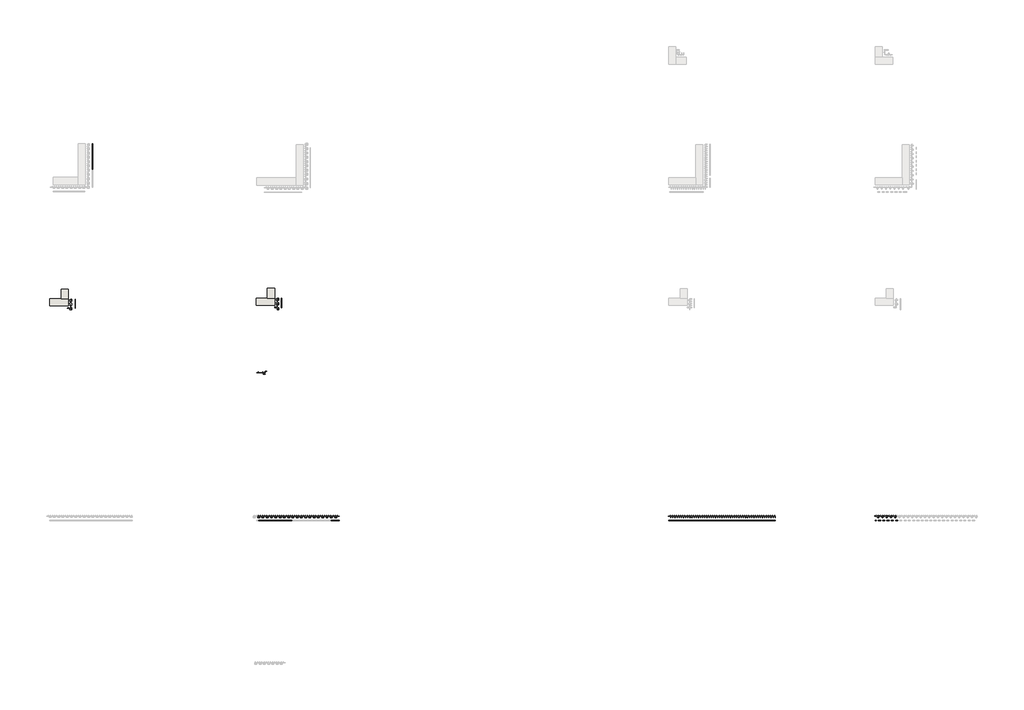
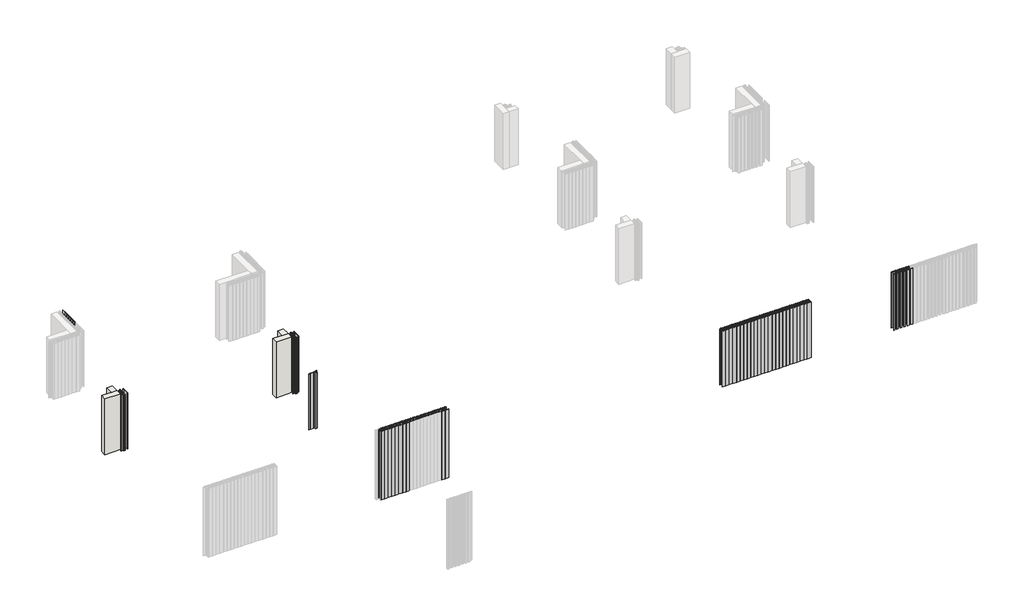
# One storey, part 2 of 5: 56 members, 51 plates, 4 walls.
"""IFC4 building model written with IfcOpenShell, lengths in millimetres."""

from ifc_helpers import new_model, si_unit, origin, origin_with_axes, place, context, project, spatial, polyline, outline, extrude, faceted_brep, transform, mapped, element, save
from components import rectangular_mullion_c315bab6, rectangular_mullion_ed2689c2, rectangular_mullion_e7adb6c3, rectangular_mullion_4f3ead3b, rectangular_mullion_e60a95b4, rectangular_mullion_f5000a33, rectangular_mullion_172d6531, rectangular_mullion_79f168d4, rectangular_mullion_f11ffd68, rectangular_mullion_1797d992, rectangular_mullion_e9b3b9de, rectangular_mullion_e46097ff, empty_system_panel_empty_b723bac0, empty_system_panel_empty_58314f5d, empty_system_panel_empty_5f038340, empty_system_panel_empty_5ee57205, empty_system_panel_empty_482ac549, empty_system_panel_empty_8461d5c4, empty_system_panel_empty_c6af10a3, empty_system_panel_empty_2e64bfd6, empty_system_panel_empty_80cd7aea, empty_system_panel_empty_fce85d88, empty_system_panel_empty_02ad7564

model = new_model("IFC4")

# Units and contexts
model_context = context("Model", 3, world=origin())
ifc_project = project(units=[si_unit("LENGTHUNIT", "METRE", prefix="MILLI")], contexts=[model_context])

# Site, building, storey
site = spatial("IfcSite", under=ifc_project)
building = spatial("IfcBuilding", under=site)
storey = spatial("IfcBuildingStorey", under=building, Name="REN - Ground plan", Elevation=0.0)

# Members
placement = place(None, origin())
rectangular_mullion_shape = rectangular_mullion_c315bab6(model_context)
element("IfcMember", 1, ObjectType="Rectangular Mullion : Renson_Linarte_LA-B25-01", at=placement, inside=storey, context=model_context, shape_type="MappedRepresentation", body=[
    mapped(rectangular_mullion_shape, transform((8012.7344965, 5541.5060851, 0.0), x_axis=(-1.0, 0.0, 0.0), y_axis=(0.0, 1.0, 0.0), z_axis=(0.0, 0.0, -1.0))),
])
element("IfcMember", 2, ObjectType="Rectangular Mullion : Renson_Linarte_LA-B25-01", at=placement, inside=storey, context=model_context, shape_type="MappedRepresentation", body=[
    mapped(rectangular_mullion_shape, transform((7952.7344965, 5541.5060851, 0.0), x_axis=(-1.0, 0.0, 0.0), y_axis=(0.0, 1.0, 0.0), z_axis=(0.0, 0.0, -1.0))),
])
element("IfcMember", 3, ObjectType="Rectangular Mullion : Renson_Linarte_LA-B25-01", at=placement, inside=storey, context=model_context, shape_type="MappedRepresentation", body=[
    mapped(rectangular_mullion_shape, transform((7892.7344965, 5541.5060851, 0.0), x_axis=(-1.0, 0.0, 0.0), y_axis=(0.0, 1.0, 0.0), z_axis=(0.0, 0.0, -1.0))),
])
element("IfcMember", 4, ObjectType="Rectangular Mullion : Renson_Linarte_LA-B25-01", at=placement, inside=storey, context=model_context, shape_type="MappedRepresentation", body=[
    mapped(rectangular_mullion_shape, transform((7832.7344965, 5541.5060851, 0.0), x_axis=(-1.0, 0.0, 0.0), y_axis=(0.0, 1.0, 0.0), z_axis=(0.0, 0.0, -1.0))),
])
element("IfcMember", 5, ObjectType="Rectangular Mullion : Renson_Linarte_LA-B25-01", at=placement, inside=storey, context=model_context, shape_type="MappedRepresentation", body=[
    mapped(rectangular_mullion_shape, transform((7772.7344965, 5541.5060851, 0.0), x_axis=(-1.0, 0.0, 0.0), y_axis=(0.0, 1.0, 0.0), z_axis=(0.0, 0.0, -1.0))),
])
element("IfcMember", 6, ObjectType="Rectangular Mullion : Renson_Linarte_LA-B25-01", at=placement, inside=storey, context=model_context, shape_type="MappedRepresentation", body=[
    mapped(rectangular_mullion_shape, transform((7712.7344965, 5541.5060851, 0.0), x_axis=(-1.0, 0.0, 0.0), y_axis=(0.0, 1.0, 0.0), z_axis=(0.0, 0.0, -1.0))),
])
element("IfcMember", 7, ObjectType="Rectangular Mullion : Renson_Linarte_LA-B25-01", at=placement, inside=storey, context=model_context, shape_type="MappedRepresentation", body=[
    mapped(rectangular_mullion_shape, transform((7652.7344965, 5541.5060851, 0.0), x_axis=(-1.0, 0.0, 0.0), y_axis=(0.0, 1.0, 0.0), z_axis=(0.0, 0.0, -1.0))),
])
element("IfcMember", 8, ObjectType="Rectangular Mullion : Renson_Linarte_LA-B25-01", at=placement, inside=storey, context=model_context, shape_type="MappedRepresentation", body=[
    mapped(rectangular_mullion_shape, transform((7592.7344965, 5541.5060851, 0.0), x_axis=(-1.0, 0.0, 0.0), y_axis=(0.0, 1.0, 0.0), z_axis=(0.0, 0.0, -1.0))),
])
element("IfcMember", 9, ObjectType="Rectangular Mullion : Renson_Linarte_LA-B25-01", at=placement, inside=storey, context=model_context, shape_type="MappedRepresentation", body=[
    mapped(rectangular_mullion_shape, transform((7532.7344965, 5541.5060851, 0.0), x_axis=(-1.0, 0.0, 0.0), y_axis=(0.0, 1.0, 0.0), z_axis=(0.0, 0.0, -1.0))),
])
element("IfcMember", 10, ObjectType="Rectangular Mullion : Renson_Linarte_LA-B25-01", at=placement, inside=storey, context=model_context, shape_type="MappedRepresentation", body=[
    mapped(rectangular_mullion_shape, transform((7472.7344965, 5541.5060851, 0.0), x_axis=(-1.0, 0.0, 0.0), y_axis=(0.0, 1.0, 0.0), z_axis=(0.0, 0.0, -1.0))),
])
element("IfcMember", 11, ObjectType="Rectangular Mullion : Renson_Linarte_LA-B25-01", at=placement, inside=storey, context=model_context, shape_type="MappedRepresentation", body=[
    mapped(rectangular_mullion_shape, transform((7412.7344965, 5541.5060851, 0.0), x_axis=(-1.0, 0.0, 0.0), y_axis=(0.0, 1.0, 0.0), z_axis=(0.0, 0.0, -1.0))),
])
element("IfcMember", 12, ObjectType="Rectangular Mullion : Renson_Linarte_LA-B25-01", at=placement, inside=storey, context=model_context, shape_type="MappedRepresentation", body=[
    mapped(rectangular_mullion_shape, transform((7352.7344965, 5541.5060851, 0.0), x_axis=(-1.0, 0.0, 0.0), y_axis=(0.0, 1.0, 0.0), z_axis=(0.0, 0.0, -1.0))),
])
element("IfcMember", 13, ObjectType="Rectangular Mullion : Renson_Linarte_LA-B25-01", at=placement, inside=storey, context=model_context, shape_type="MappedRepresentation", body=[
    mapped(rectangular_mullion_shape, transform((7292.7344965, 5541.5060851, 0.0), x_axis=(-1.0, 0.0, 0.0), y_axis=(0.0, 1.0, 0.0), z_axis=(0.0, 0.0, -1.0))),
])
element("IfcMember", 14, ObjectType="Rectangular Mullion : Renson_Linarte_LA-B25-01", at=placement, inside=storey, context=model_context, shape_type="MappedRepresentation", body=[
    mapped(rectangular_mullion_shape, transform((7232.7344965, 5541.5060851, 0.0), x_axis=(-1.0, 0.0, 0.0), y_axis=(0.0, 1.0, 0.0), z_axis=(0.0, 0.0, -1.0))),
])
element("IfcMember", 15, ObjectType="Rectangular Mullion : Renson_Linarte_LA-B25-01", at=placement, inside=storey, context=model_context, shape_type="MappedRepresentation", body=[
    mapped(rectangular_mullion_shape, transform((7172.7344965, 5541.5060851, 0.0), x_axis=(-1.0, 0.0, 0.0), y_axis=(0.0, 1.0, 0.0), z_axis=(0.0, 0.0, -1.0))),
])
element("IfcMember", 16, ObjectType="Rectangular Mullion : Renson_Linarte_LA-B25-01", at=placement, inside=storey, context=model_context, shape_type="MappedRepresentation", body=[
    mapped(rectangular_mullion_shape, transform((7112.7344965, 5541.5060851, 0.0), x_axis=(-1.0, 0.0, 0.0), y_axis=(0.0, 1.0, 0.0), z_axis=(0.0, 0.0, -1.0))),
])
element("IfcMember", 17, ObjectType="Rectangular Mullion : Renson_Linarte_LA-B25-01", at=placement, inside=storey, context=model_context, shape_type="MappedRepresentation", body=[
    mapped(rectangular_mullion_shape, transform((7052.7344965, 5541.5060851, 0.0), x_axis=(-1.0, 0.0, 0.0), y_axis=(0.0, 1.0, 0.0), z_axis=(0.0, 0.0, -1.0))),
])
element("IfcMember", 18, ObjectType="Rectangular Mullion : Renson_Linarte_LA-B25-01", at=placement, inside=storey, context=model_context, shape_type="MappedRepresentation", body=[
    mapped(rectangular_mullion_shape, transform((8072.7344965, 5541.5060851, 0.0), x_axis=(-1.0, 0.0, 0.0), y_axis=(0.0, 1.0, 0.0), z_axis=(0.0, 0.0, -1.0))),
])
rectangular_mullion_2_shape = rectangular_mullion_ed2689c2(model_context)
element("IfcMember", 19, ObjectType="Rectangular Mullion : Renson_Linarte_LA-B25-01", at=placement, inside=storey, context=model_context, shape_type="MappedRepresentation", body=[
    mapped(rectangular_mullion_2_shape, transform((8132.7344968, 5541.5060851, 1225.5020157), x_axis=(1.0, 0.0, 0.0), y_axis=(0.0, 1.0, 0.0), z_axis=(0.0, 0.0, 1.0))),
])
rectangular_mullion_3_shape = rectangular_mullion_e7adb6c3(model_context)
element("IfcMember", 20, ObjectType="Rectangular Mullion : Renson_Linarte_LA-B25-03", at=placement, inside=storey, context=model_context, shape_type="MappedRepresentation", body=[
    mapped(rectangular_mullion_3_shape, transform((7224.5640557, 8408.8720211, 0.0), x_axis=(-6.757625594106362e-10, -1.0, 0.0), y_axis=(-1.0, 6.757625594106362e-10, 0.0), z_axis=(0.0, 0.0, -1.0))),
])
rectangular_mullion_4_shape = rectangular_mullion_4f3ead3b(model_context)
element("IfcMember", 21, ObjectType="Rectangular Mullion : Renson_Linarte_LA-B25-05", at=placement, inside=storey, context=model_context, shape_type="MappedRepresentation", body=[
    mapped(rectangular_mullion_4_shape, transform((7224.5640558, 8541.9720215, 0.0), x_axis=(-6.757625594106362e-10, -1.0, 0.0), y_axis=(-1.0, 6.757625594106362e-10, 0.0), z_axis=(0.0, 0.0, -1.0))),
])
rectangular_mullion_5_shape = rectangular_mullion_e60a95b4(model_context)
element("IfcMember", 22, ObjectType="Rectangular Mullion : Renson_Linarte_LA-B25-02", at=placement, inside=storey, context=model_context, shape_type="MappedRepresentation", body=[
    mapped(rectangular_mullion_5_shape, transform((7224.5640558, 8568.8720211, 1000.0), x_axis=(6.757625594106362e-10, 1.0, 0.0), y_axis=(-1.0, 6.757625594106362e-10, 0.0), z_axis=(0.0, 0.0, 1.0))),
])
rectangular_mullion_6_shape = rectangular_mullion_f5000a33(model_context)
element("IfcMember", 23, ObjectType="Rectangular Mullion : Renson_Linarte_AZ-DB-16", at=placement, inside=storey, context=model_context, shape_type="MappedRepresentation", body=[
    mapped(rectangular_mullion_6_shape, transform((6972.7344968, 7558.4014326, 1000.0), x_axis=(-1.0, 0.0, 0.0), y_axis=(0.0, -1.0, 0.0), z_axis=(0.0, 0.0, 1.0))),
])
rectangular_mullion_7_shape = rectangular_mullion_172d6531(model_context)
element("IfcMember", 24, ObjectType="Rectangular Mullion : Renson_Linarte_LA-B16-05", at=placement, inside=storey, context=model_context, shape_type="MappedRepresentation", body=[
    mapped(rectangular_mullion_7_shape, transform((4324.5640554, 8532.9720215, 0.0), x_axis=(2.972011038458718e-10, -1.0, 0.0), y_axis=(-1.0, -2.972011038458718e-10, 0.0), z_axis=(0.0, 0.0, -1.0))),
])
rectangular_mullion_8_shape = rectangular_mullion_79f168d4(model_context)
element("IfcMember", 25, ObjectType="Rectangular Mullion : Renson_Linarte_LA-B16-02", at=placement, inside=storey, context=model_context, shape_type="MappedRepresentation", body=[
    mapped(rectangular_mullion_8_shape, transform((4324.5640554, 8556.1164634, 1000.0), x_axis=(-2.972011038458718e-10, 1.0, 0.0), y_axis=(-1.0, -2.972011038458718e-10, 0.0), z_axis=(0.0, 0.0, 1.0))),
])
rectangular_mullion_9_shape = rectangular_mullion_f11ffd68(model_context)
element("IfcMember", 26, ObjectType="Rectangular Mullion : Renson_Linarte_LA-B16-03", at=placement, inside=storey, context=model_context, shape_type="MappedRepresentation", body=[
    mapped(rectangular_mullion_9_shape, transform((4324.5640554, 8408.8720211, 0.0), x_axis=(2.972011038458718e-10, -1.0, 0.0), y_axis=(-1.0, -2.972011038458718e-10, 0.0), z_axis=(0.0, 0.0, -1.0))),
])
rectangular_mullion_10_shape = rectangular_mullion_1797d992(model_context)
element("IfcMember", 27, ObjectType="Rectangular Mullion : Renson_Linarte_LA-E25-01", at=placement, inside=storey, context=model_context, shape_type="MappedRepresentation", body=[
    mapped(rectangular_mullion_10_shape, transform((14264.5640555, 5541.5060851, 1000.0), x_axis=(1.0, 0.0, 0.0), y_axis=(0.0, 1.0, 0.0), z_axis=(0.0, 0.0, 1.0))),
])
rectangular_mullion_11_shape = rectangular_mullion_e9b3b9de(model_context)
element("IfcMember", 28, ObjectType="Rectangular Mullion : Renson_Linarte_LA-E25-01", at=placement, inside=storey, context=model_context, shape_type="MappedRepresentation", body=[
    mapped(rectangular_mullion_11_shape, transform((14144.5640552, 5541.5060851, 0.0), x_axis=(-1.0, 0.0, 0.0), y_axis=(0.0, 1.0, 0.0), z_axis=(0.0, 0.0, -1.0))),
])
element("IfcMember", 29, ObjectType="Rectangular Mullion : Renson_Linarte_LA-E25-01", at=placement, inside=storey, context=model_context, shape_type="MappedRepresentation", body=[
    mapped(rectangular_mullion_11_shape, transform((14084.5640552, 5541.5060851, 0.0), x_axis=(-1.0, 0.0, 0.0), y_axis=(0.0, 1.0, 0.0), z_axis=(0.0, 0.0, -1.0))),
])
element("IfcMember", 30, ObjectType="Rectangular Mullion : Renson_Linarte_LA-E25-01", at=placement, inside=storey, context=model_context, shape_type="MappedRepresentation", body=[
    mapped(rectangular_mullion_11_shape, transform((14024.5640552, 5541.5060851, 0.0), x_axis=(-1.0, 0.0, 0.0), y_axis=(0.0, 1.0, 0.0), z_axis=(0.0, 0.0, -1.0))),
])
element("IfcMember", 31, ObjectType="Rectangular Mullion : Renson_Linarte_LA-E25-01", at=placement, inside=storey, context=model_context, shape_type="MappedRepresentation", body=[
    mapped(rectangular_mullion_11_shape, transform((13964.5640552, 5541.5060851, 0.0), x_axis=(-1.0, 0.0, 0.0), y_axis=(0.0, 1.0, 0.0), z_axis=(0.0, 0.0, -1.0))),
])
element("IfcMember", 32, ObjectType="Rectangular Mullion : Renson_Linarte_LA-E25-01", at=placement, inside=storey, context=model_context, shape_type="MappedRepresentation", body=[
    mapped(rectangular_mullion_11_shape, transform((13904.5640552, 5541.5060851, 0.0), x_axis=(-1.0, 0.0, 0.0), y_axis=(0.0, 1.0, 0.0), z_axis=(0.0, 0.0, -1.0))),
])
element("IfcMember", 33, ObjectType="Rectangular Mullion : Renson_Linarte_LA-E25-01", at=placement, inside=storey, context=model_context, shape_type="MappedRepresentation", body=[
    mapped(rectangular_mullion_11_shape, transform((13844.5640552, 5541.5060851, 0.0), x_axis=(-1.0, 0.0, 0.0), y_axis=(0.0, 1.0, 0.0), z_axis=(0.0, 0.0, -1.0))),
])
element("IfcMember", 34, ObjectType="Rectangular Mullion : Renson_Linarte_LA-E25-01", at=placement, inside=storey, context=model_context, shape_type="MappedRepresentation", body=[
    mapped(rectangular_mullion_11_shape, transform((13784.5640552, 5541.5060851, 0.0), x_axis=(-1.0, 0.0, 0.0), y_axis=(0.0, 1.0, 0.0), z_axis=(0.0, 0.0, -1.0))),
])
element("IfcMember", 35, ObjectType="Rectangular Mullion : Renson_Linarte_LA-E25-01", at=placement, inside=storey, context=model_context, shape_type="MappedRepresentation", body=[
    mapped(rectangular_mullion_11_shape, transform((13724.5640552, 5541.5060851, 0.0), x_axis=(-1.0, 0.0, 0.0), y_axis=(0.0, 1.0, 0.0), z_axis=(0.0, 0.0, -1.0))),
])
element("IfcMember", 36, ObjectType="Rectangular Mullion : Renson_Linarte_LA-E25-01", at=placement, inside=storey, context=model_context, shape_type="MappedRepresentation", body=[
    mapped(rectangular_mullion_11_shape, transform((13664.5640552, 5541.5060851, 0.0), x_axis=(-1.0, 0.0, 0.0), y_axis=(0.0, 1.0, 0.0), z_axis=(0.0, 0.0, -1.0))),
])
element("IfcMember", 37, ObjectType="Rectangular Mullion : Renson_Linarte_LA-E25-01", at=placement, inside=storey, context=model_context, shape_type="MappedRepresentation", body=[
    mapped(rectangular_mullion_11_shape, transform((13604.5640552, 5541.5060851, 0.0), x_axis=(-1.0, 0.0, 0.0), y_axis=(0.0, 1.0, 0.0), z_axis=(0.0, 0.0, -1.0))),
])
element("IfcMember", 38, ObjectType="Rectangular Mullion : Renson_Linarte_LA-E25-01", at=placement, inside=storey, context=model_context, shape_type="MappedRepresentation", body=[
    mapped(rectangular_mullion_11_shape, transform((13544.5640552, 5541.5060851, 0.0), x_axis=(-1.0, 0.0, 0.0), y_axis=(0.0, 1.0, 0.0), z_axis=(0.0, 0.0, -1.0))),
])
element("IfcMember", 39, ObjectType="Rectangular Mullion : Renson_Linarte_LA-E25-01", at=placement, inside=storey, context=model_context, shape_type="MappedRepresentation", body=[
    mapped(rectangular_mullion_11_shape, transform((13484.5640552, 5541.5060851, 0.0), x_axis=(-1.0, 0.0, 0.0), y_axis=(0.0, 1.0, 0.0), z_axis=(0.0, 0.0, -1.0))),
])
element("IfcMember", 40, ObjectType="Rectangular Mullion : Renson_Linarte_LA-E25-01", at=placement, inside=storey, context=model_context, shape_type="MappedRepresentation", body=[
    mapped(rectangular_mullion_11_shape, transform((13424.5640552, 5541.5060851, 0.0), x_axis=(-1.0, 0.0, 0.0), y_axis=(0.0, 1.0, 0.0), z_axis=(0.0, 0.0, -1.0))),
])
element("IfcMember", 41, ObjectType="Rectangular Mullion : Renson_Linarte_LA-E25-01", at=placement, inside=storey, context=model_context, shape_type="MappedRepresentation", body=[
    mapped(rectangular_mullion_11_shape, transform((13364.5640552, 5541.5060851, 0.0), x_axis=(-1.0, 0.0, 0.0), y_axis=(0.0, 1.0, 0.0), z_axis=(0.0, 0.0, -1.0))),
])
element("IfcMember", 42, ObjectType="Rectangular Mullion : Renson_Linarte_LA-E25-01", at=placement, inside=storey, context=model_context, shape_type="MappedRepresentation", body=[
    mapped(rectangular_mullion_11_shape, transform((13304.5640552, 5541.5060851, 0.0), x_axis=(-1.0, 0.0, 0.0), y_axis=(0.0, 1.0, 0.0), z_axis=(0.0, 0.0, -1.0))),
])
element("IfcMember", 43, ObjectType="Rectangular Mullion : Renson_Linarte_LA-E25-01", at=placement, inside=storey, context=model_context, shape_type="MappedRepresentation", body=[
    mapped(rectangular_mullion_11_shape, transform((13244.5640552, 5541.5060851, 0.0), x_axis=(-1.0, 0.0, 0.0), y_axis=(0.0, 1.0, 0.0), z_axis=(0.0, 0.0, -1.0))),
])
element("IfcMember", 44, ObjectType="Rectangular Mullion : Renson_Linarte_LA-E25-01", at=placement, inside=storey, context=model_context, shape_type="MappedRepresentation", body=[
    mapped(rectangular_mullion_11_shape, transform((13184.5640552, 5541.5060851, 0.0), x_axis=(-1.0, 0.0, 0.0), y_axis=(0.0, 1.0, 0.0), z_axis=(0.0, 0.0, -1.0))),
])
element("IfcMember", 45, ObjectType="Rectangular Mullion : Renson_Linarte_LA-E25-01", at=placement, inside=storey, context=model_context, shape_type="MappedRepresentation", body=[
    mapped(rectangular_mullion_11_shape, transform((13124.5640552, 5541.5060851, 0.0), x_axis=(-1.0, 0.0, 0.0), y_axis=(0.0, 1.0, 0.0), z_axis=(0.0, 0.0, -1.0))),
])
element("IfcMember", 46, ObjectType="Rectangular Mullion : Renson_Linarte_LA-E25-01", at=placement, inside=storey, context=model_context, shape_type="MappedRepresentation", body=[
    mapped(rectangular_mullion_11_shape, transform((13064.5640552, 5541.5060851, 0.0), x_axis=(-1.0, 0.0, 0.0), y_axis=(0.0, 1.0, 0.0), z_axis=(0.0, 0.0, -1.0))),
])
element("IfcMember", 47, ObjectType="Rectangular Mullion : Renson_Linarte_LA-E25-01", at=placement, inside=storey, context=model_context, shape_type="MappedRepresentation", body=[
    mapped(rectangular_mullion_11_shape, transform((13004.5640552, 5541.5060851, 0.0), x_axis=(-1.0, 0.0, 0.0), y_axis=(0.0, 1.0, 0.0), z_axis=(0.0, 0.0, -1.0))),
])
element("IfcMember", 48, ObjectType="Rectangular Mullion : Renson_Linarte_LA-E25-01", at=placement, inside=storey, context=model_context, shape_type="MappedRepresentation", body=[
    mapped(rectangular_mullion_11_shape, transform((12944.5640552, 5541.5060851, 0.0), x_axis=(-1.0, 0.0, 0.0), y_axis=(0.0, 1.0, 0.0), z_axis=(0.0, 0.0, -1.0))),
])
element("IfcMember", 49, ObjectType="Rectangular Mullion : Renson_Linarte_LA-E25-01", at=placement, inside=storey, context=model_context, shape_type="MappedRepresentation", body=[
    mapped(rectangular_mullion_11_shape, transform((12884.5640552, 5541.5060851, 0.0), x_axis=(-1.0, 0.0, 0.0), y_axis=(0.0, 1.0, 0.0), z_axis=(0.0, 0.0, -1.0))),
])
element("IfcMember", 50, ObjectType="Rectangular Mullion : Renson_Linarte_LA-E25-01", at=placement, inside=storey, context=model_context, shape_type="MappedRepresentation", body=[
    mapped(rectangular_mullion_11_shape, transform((14204.5640552, 5541.5060851, 0.0), x_axis=(-1.0, 0.0, 0.0), y_axis=(0.0, 1.0, 0.0), z_axis=(0.0, 0.0, -1.0))),
])
element("IfcMember", 51, ObjectType="Rectangular Mullion : Renson_Linarte_LA-E25-01", at=placement, inside=storey, context=model_context, shape_type="MappedRepresentation", body=[
    mapped(rectangular_mullion_11_shape, transform((12824.5640552, 5541.5060851, 0.0), x_axis=(-1.0, 0.0, 0.0), y_axis=(0.0, 1.0, 0.0), z_axis=(0.0, 0.0, -1.0))),
])
rectangular_mullion_12_shape = rectangular_mullion_e46097ff(model_context)
element("IfcMember", 52, ObjectType="Rectangular Mullion : Renson_Linarte_LA-CO-01", at=placement, inside=storey, context=model_context, shape_type="MappedRepresentation", body=[
    mapped(rectangular_mullion_12_shape, transform((15964.5640552, 5541.5060851, 0.0), x_axis=(-1.0, 0.0, 0.0), y_axis=(0.0, 1.0, 0.0), z_axis=(0.0, 0.0, -1.0))),
])
element("IfcMember", 53, ObjectType="Rectangular Mullion : Renson_Linarte_LA-CO-01", at=placement, inside=storey, context=model_context, shape_type="MappedRepresentation", body=[
    mapped(rectangular_mullion_12_shape, transform((15904.5640552, 5541.5060851, 0.0), x_axis=(-1.0, 0.0, 0.0), y_axis=(0.0, 1.0, 0.0), z_axis=(0.0, 0.0, -1.0))),
])
element("IfcMember", 54, ObjectType="Rectangular Mullion : Renson_Linarte_LA-CO-01", at=placement, inside=storey, context=model_context, shape_type="MappedRepresentation", body=[
    mapped(rectangular_mullion_12_shape, transform((15844.5640552, 5541.5060851, 0.0), x_axis=(-1.0, 0.0, 0.0), y_axis=(0.0, 1.0, 0.0), z_axis=(0.0, 0.0, -1.0))),
])
element("IfcMember", 55, ObjectType="Rectangular Mullion : Renson_Linarte_LA-CO-01", at=placement, inside=storey, context=model_context, shape_type="MappedRepresentation", body=[
    mapped(rectangular_mullion_12_shape, transform((15784.5640552, 5541.5060851, 0.0), x_axis=(-1.0, 0.0, 0.0), y_axis=(0.0, 1.0, 0.0), z_axis=(0.0, 0.0, -1.0))),
])
element("IfcMember", 56, ObjectType="Rectangular Mullion : Renson_Linarte_LA-CO-01", at=placement, inside=storey, context=model_context, shape_type="MappedRepresentation", body=[
    mapped(rectangular_mullion_12_shape, transform((15724.5640552, 5541.5060851, 0.0), x_axis=(-1.0, 0.0, 0.0), y_axis=(0.0, 1.0, 0.0), z_axis=(0.0, 0.0, -1.0))),
])

# Plates
empty_system_panel_empty_shape = empty_system_panel_empty_b723bac0(model_context)
element("IfcPlate", 57, ObjectType="Empty System Panel : Empty", at=placement, inside=storey, context=model_context, shape_type="MappedRepresentation", body=[
    mapped(empty_system_panel_empty_shape, transform((7442.7344965, 5541.5060851, 0.0), x_axis=(-1.0, 0.0, 0.0), y_axis=(0.0, -1.0, 0.0), z_axis=(0.0, 0.0, 1.0))),
])
element("IfcPlate", 58, ObjectType="Empty System Panel : Empty", at=placement, inside=storey, context=model_context, shape_type="MappedRepresentation", body=[
    mapped(empty_system_panel_empty_shape, transform((7382.7344965, 5541.5060851, 0.0), x_axis=(-1.0, 0.0, 0.0), y_axis=(0.0, -1.0, 0.0), z_axis=(0.0, 0.0, 1.0))),
])
element("IfcPlate", 59, ObjectType="Empty System Panel : Empty", at=placement, inside=storey, context=model_context, shape_type="MappedRepresentation", body=[
    mapped(empty_system_panel_empty_shape, transform((7322.7344965, 5541.5060851, 0.0), x_axis=(-1.0, 0.0, 0.0), y_axis=(0.0, -1.0, 0.0), z_axis=(0.0, 0.0, 1.0))),
])
element("IfcPlate", 60, ObjectType="Empty System Panel : Empty", at=placement, inside=storey, context=model_context, shape_type="MappedRepresentation", body=[
    mapped(empty_system_panel_empty_shape, transform((7262.7344965, 5541.5060851, 0.0), x_axis=(-1.0, 0.0, 0.0), y_axis=(0.0, -1.0, 0.0), z_axis=(0.0, 0.0, 1.0))),
])
element("IfcPlate", 61, ObjectType="Empty System Panel : Empty", at=placement, inside=storey, context=model_context, shape_type="MappedRepresentation", body=[
    mapped(empty_system_panel_empty_shape, transform((7202.7344965, 5541.5060851, 0.0), x_axis=(-1.0, 0.0, 0.0), y_axis=(0.0, -1.0, 0.0), z_axis=(0.0, 0.0, 1.0))),
])
element("IfcPlate", 62, ObjectType="Empty System Panel : Empty", at=placement, inside=storey, context=model_context, shape_type="MappedRepresentation", body=[
    mapped(empty_system_panel_empty_shape, transform((7142.7344965, 5541.5060851, 0.0), x_axis=(-1.0, 0.0, 0.0), y_axis=(0.0, -1.0, 0.0), z_axis=(0.0, 0.0, 1.0))),
])
element("IfcPlate", 63, ObjectType="Empty System Panel : Empty", at=placement, inside=storey, context=model_context, shape_type="MappedRepresentation", body=[
    mapped(empty_system_panel_empty_shape, transform((7082.7344965, 5541.5060851, 0.0), x_axis=(-1.0, 0.0, 0.0), y_axis=(0.0, -1.0, 0.0), z_axis=(0.0, 0.0, 1.0))),
])
element("IfcPlate", 64, ObjectType="Empty System Panel : Empty", at=placement, inside=storey, context=model_context, shape_type="MappedRepresentation", body=[
    mapped(empty_system_panel_empty_shape, transform((7022.7344965, 5541.5060851, 0.0), x_axis=(-1.0, 0.0, 0.0), y_axis=(0.0, -1.0, 0.0), z_axis=(0.0, 0.0, 1.0))),
])
element("IfcPlate", 65, ObjectType="Empty System Panel : Empty", at=placement, inside=storey, context=model_context, shape_type="MappedRepresentation", body=[
    mapped(empty_system_panel_empty_shape, transform((8042.7344965, 5541.5060851, 0.0), x_axis=(-1.0, 0.0, 0.0), y_axis=(0.0, -1.0, 0.0), z_axis=(0.0, 0.0, 1.0))),
])
empty_system_panel_empty_2_shape = empty_system_panel_empty_58314f5d(model_context)
element("IfcPlate", 66, ObjectType="Empty System Panel : Empty", at=placement, inside=storey, context=model_context, shape_type="MappedRepresentation", body=[
    mapped(empty_system_panel_empty_2_shape, transform((8102.7344966, 5541.5060851, 0.0), x_axis=(-1.0, 0.0, 0.0), y_axis=(0.0, -1.0, 0.0), z_axis=(0.0, 0.0, 1.0))),
])
empty_system_panel_empty_3_shape = empty_system_panel_empty_5f038340(model_context)
element("IfcPlate", 67, ObjectType="Empty System Panel : Empty", at=placement, inside=storey, context=model_context, shape_type="MappedRepresentation", body=[
    mapped(empty_system_panel_empty_3_shape, transform((7224.5640557, 8488.6657259, 0.0), x_axis=(-6.757625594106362e-10, -1.0, 0.0), y_axis=(1.0, -6.757625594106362e-10, 0.0), z_axis=(0.0, 0.0, 1.0))),
])
empty_system_panel_empty_4_shape = empty_system_panel_empty_5ee57205(model_context)
element("IfcPlate", 68, ObjectType="Empty System Panel : Empty", at=placement, inside=storey, context=model_context, shape_type="MappedRepresentation", body=[
    mapped(empty_system_panel_empty_4_shape, transform((4566.7742528, 10650.7897981, 0.0), x_axis=(0.0, -1.0, 0.0), y_axis=(1.0, 0.0, 0.0), z_axis=(0.0, 0.0, 1.0))),
])
element("IfcPlate", 69, ObjectType="Empty System Panel : Empty", at=placement, inside=storey, context=model_context, shape_type="MappedRepresentation", body=[
    mapped(empty_system_panel_empty_4_shape, transform((4566.7742528, 10590.7897981, 0.0), x_axis=(0.0, -1.0, 0.0), y_axis=(1.0, 0.0, 0.0), z_axis=(0.0, 0.0, 1.0))),
])
element("IfcPlate", 70, ObjectType="Empty System Panel : Empty", at=placement, inside=storey, context=model_context, shape_type="MappedRepresentation", body=[
    mapped(empty_system_panel_empty_4_shape, transform((4566.7742528, 10530.7897981, 0.0), x_axis=(0.0, -1.0, 0.0), y_axis=(1.0, 0.0, 0.0), z_axis=(0.0, 0.0, 1.0))),
])
element("IfcPlate", 71, ObjectType="Empty System Panel : Empty", at=placement, inside=storey, context=model_context, shape_type="MappedRepresentation", body=[
    mapped(empty_system_panel_empty_4_shape, transform((4566.7742528, 10470.7897981, 0.0), x_axis=(0.0, -1.0, 0.0), y_axis=(1.0, 0.0, 0.0), z_axis=(0.0, 0.0, 1.0))),
])
element("IfcPlate", 72, ObjectType="Empty System Panel : Empty", at=placement, inside=storey, context=model_context, shape_type="MappedRepresentation", body=[
    mapped(empty_system_panel_empty_4_shape, transform((4566.7742528, 10410.7897981, 0.0), x_axis=(0.0, -1.0, 0.0), y_axis=(1.0, 0.0, 0.0), z_axis=(0.0, 0.0, 1.0))),
])
element("IfcPlate", 73, ObjectType="Empty System Panel : Empty", at=placement, inside=storey, context=model_context, shape_type="MappedRepresentation", body=[
    mapped(empty_system_panel_empty_4_shape, transform((14114.5640552, 5541.5060851, 0.0), x_axis=(-1.0, 0.0, 0.0), y_axis=(0.0, -1.0, 0.0), z_axis=(0.0, 0.0, 1.0))),
])
element("IfcPlate", 74, ObjectType="Empty System Panel : Empty", at=placement, inside=storey, context=model_context, shape_type="MappedRepresentation", body=[
    mapped(empty_system_panel_empty_4_shape, transform((14054.5640552, 5541.5060851, 0.0), x_axis=(-1.0, 0.0, 0.0), y_axis=(0.0, -1.0, 0.0), z_axis=(0.0, 0.0, 1.0))),
])
element("IfcPlate", 75, ObjectType="Empty System Panel : Empty", at=placement, inside=storey, context=model_context, shape_type="MappedRepresentation", body=[
    mapped(empty_system_panel_empty_4_shape, transform((13994.5640552, 5541.5060851, 0.0), x_axis=(-1.0, 0.0, 0.0), y_axis=(0.0, -1.0, 0.0), z_axis=(0.0, 0.0, 1.0))),
])
element("IfcPlate", 76, ObjectType="Empty System Panel : Empty", at=placement, inside=storey, context=model_context, shape_type="MappedRepresentation", body=[
    mapped(empty_system_panel_empty_4_shape, transform((13934.5640552, 5541.5060851, 0.0), x_axis=(-1.0, 0.0, 0.0), y_axis=(0.0, -1.0, 0.0), z_axis=(0.0, 0.0, 1.0))),
])
element("IfcPlate", 77, ObjectType="Empty System Panel : Empty", at=placement, inside=storey, context=model_context, shape_type="MappedRepresentation", body=[
    mapped(empty_system_panel_empty_4_shape, transform((13874.5640552, 5541.5060851, 0.0), x_axis=(-1.0, 0.0, 0.0), y_axis=(0.0, -1.0, 0.0), z_axis=(0.0, 0.0, 1.0))),
])
element("IfcPlate", 78, ObjectType="Empty System Panel : Empty", at=placement, inside=storey, context=model_context, shape_type="MappedRepresentation", body=[
    mapped(empty_system_panel_empty_4_shape, transform((13814.5640552, 5541.5060851, 0.0), x_axis=(-1.0, 0.0, 0.0), y_axis=(0.0, -1.0, 0.0), z_axis=(0.0, 0.0, 1.0))),
])
element("IfcPlate", 79, ObjectType="Empty System Panel : Empty", at=placement, inside=storey, context=model_context, shape_type="MappedRepresentation", body=[
    mapped(empty_system_panel_empty_4_shape, transform((13754.5640552, 5541.5060851, 0.0), x_axis=(-1.0, 0.0, 0.0), y_axis=(0.0, -1.0, 0.0), z_axis=(0.0, 0.0, 1.0))),
])
element("IfcPlate", 80, ObjectType="Empty System Panel : Empty", at=placement, inside=storey, context=model_context, shape_type="MappedRepresentation", body=[
    mapped(empty_system_panel_empty_4_shape, transform((13694.5640552, 5541.5060851, 0.0), x_axis=(-1.0, 0.0, 0.0), y_axis=(0.0, -1.0, 0.0), z_axis=(0.0, 0.0, 1.0))),
])
element("IfcPlate", 81, ObjectType="Empty System Panel : Empty", at=placement, inside=storey, context=model_context, shape_type="MappedRepresentation", body=[
    mapped(empty_system_panel_empty_4_shape, transform((13634.5640552, 5541.5060851, 0.0), x_axis=(-1.0, 0.0, 0.0), y_axis=(0.0, -1.0, 0.0), z_axis=(0.0, 0.0, 1.0))),
])
element("IfcPlate", 82, ObjectType="Empty System Panel : Empty", at=placement, inside=storey, context=model_context, shape_type="MappedRepresentation", body=[
    mapped(empty_system_panel_empty_4_shape, transform((13574.5640552, 5541.5060851, 0.0), x_axis=(-1.0, 0.0, 0.0), y_axis=(0.0, -1.0, 0.0), z_axis=(0.0, 0.0, 1.0))),
])
element("IfcPlate", 83, ObjectType="Empty System Panel : Empty", at=placement, inside=storey, context=model_context, shape_type="MappedRepresentation", body=[
    mapped(empty_system_panel_empty_4_shape, transform((13514.5640552, 5541.5060851, 0.0), x_axis=(-1.0, 0.0, 0.0), y_axis=(0.0, -1.0, 0.0), z_axis=(0.0, 0.0, 1.0))),
])
element("IfcPlate", 84, ObjectType="Empty System Panel : Empty", at=placement, inside=storey, context=model_context, shape_type="MappedRepresentation", body=[
    mapped(empty_system_panel_empty_4_shape, transform((13454.5640552, 5541.5060851, 0.0), x_axis=(-1.0, 0.0, 0.0), y_axis=(0.0, -1.0, 0.0), z_axis=(0.0, 0.0, 1.0))),
])
element("IfcPlate", 85, ObjectType="Empty System Panel : Empty", at=placement, inside=storey, context=model_context, shape_type="MappedRepresentation", body=[
    mapped(empty_system_panel_empty_4_shape, transform((13394.5640552, 5541.5060851, 0.0), x_axis=(-1.0, 0.0, 0.0), y_axis=(0.0, -1.0, 0.0), z_axis=(0.0, 0.0, 1.0))),
])
element("IfcPlate", 86, ObjectType="Empty System Panel : Empty", at=placement, inside=storey, context=model_context, shape_type="MappedRepresentation", body=[
    mapped(empty_system_panel_empty_4_shape, transform((13334.5640552, 5541.5060851, 0.0), x_axis=(-1.0, 0.0, 0.0), y_axis=(0.0, -1.0, 0.0), z_axis=(0.0, 0.0, 1.0))),
])
element("IfcPlate", 87, ObjectType="Empty System Panel : Empty", at=placement, inside=storey, context=model_context, shape_type="MappedRepresentation", body=[
    mapped(empty_system_panel_empty_4_shape, transform((13274.5640552, 5541.5060851, 0.0), x_axis=(-1.0, 0.0, 0.0), y_axis=(0.0, -1.0, 0.0), z_axis=(0.0, 0.0, 1.0))),
])
element("IfcPlate", 88, ObjectType="Empty System Panel : Empty", at=placement, inside=storey, context=model_context, shape_type="MappedRepresentation", body=[
    mapped(empty_system_panel_empty_4_shape, transform((13214.5640552, 5541.5060851, 0.0), x_axis=(-1.0, 0.0, 0.0), y_axis=(0.0, -1.0, 0.0), z_axis=(0.0, 0.0, 1.0))),
])
element("IfcPlate", 89, ObjectType="Empty System Panel : Empty", at=placement, inside=storey, context=model_context, shape_type="MappedRepresentation", body=[
    mapped(empty_system_panel_empty_4_shape, transform((13154.5640552, 5541.5060851, 0.0), x_axis=(-1.0, 0.0, 0.0), y_axis=(0.0, -1.0, 0.0), z_axis=(0.0, 0.0, 1.0))),
])
element("IfcPlate", 90, ObjectType="Empty System Panel : Empty", at=placement, inside=storey, context=model_context, shape_type="MappedRepresentation", body=[
    mapped(empty_system_panel_empty_4_shape, transform((13094.5640552, 5541.5060851, 0.0), x_axis=(-1.0, 0.0, 0.0), y_axis=(0.0, -1.0, 0.0), z_axis=(0.0, 0.0, 1.0))),
])
element("IfcPlate", 91, ObjectType="Empty System Panel : Empty", at=placement, inside=storey, context=model_context, shape_type="MappedRepresentation", body=[
    mapped(empty_system_panel_empty_4_shape, transform((13034.5640552, 5541.5060851, 0.0), x_axis=(-1.0, 0.0, 0.0), y_axis=(0.0, -1.0, 0.0), z_axis=(0.0, 0.0, 1.0))),
])
element("IfcPlate", 92, ObjectType="Empty System Panel : Empty", at=placement, inside=storey, context=model_context, shape_type="MappedRepresentation", body=[
    mapped(empty_system_panel_empty_4_shape, transform((12974.5640552, 5541.5060851, 0.0), x_axis=(-1.0, 0.0, 0.0), y_axis=(0.0, -1.0, 0.0), z_axis=(0.0, 0.0, 1.0))),
])
element("IfcPlate", 93, ObjectType="Empty System Panel : Empty", at=placement, inside=storey, context=model_context, shape_type="MappedRepresentation", body=[
    mapped(empty_system_panel_empty_4_shape, transform((12914.5640552, 5541.5060851, 0.0), x_axis=(-1.0, 0.0, 0.0), y_axis=(0.0, -1.0, 0.0), z_axis=(0.0, 0.0, 1.0))),
])
element("IfcPlate", 94, ObjectType="Empty System Panel : Empty", at=placement, inside=storey, context=model_context, shape_type="MappedRepresentation", body=[
    mapped(empty_system_panel_empty_4_shape, transform((12854.5640552, 5541.5060851, 0.0), x_axis=(-1.0, 0.0, 0.0), y_axis=(0.0, -1.0, 0.0), z_axis=(0.0, 0.0, 1.0))),
])
element("IfcPlate", 95, ObjectType="Empty System Panel : Empty", at=placement, inside=storey, context=model_context, shape_type="MappedRepresentation", body=[
    mapped(empty_system_panel_empty_4_shape, transform((14174.5640552, 5541.5060851, 0.0), x_axis=(-1.0, 0.0, 0.0), y_axis=(0.0, -1.0, 0.0), z_axis=(0.0, 0.0, 1.0))),
])
empty_system_panel_empty_5_shape = empty_system_panel_empty_482ac549(model_context)
element("IfcPlate", 96, ObjectType="Empty System Panel : Empty", at=placement, inside=storey, context=model_context, shape_type="MappedRepresentation", body=[
    mapped(empty_system_panel_empty_5_shape, transform((4324.5640554, 8544.5442425, 0.0), x_axis=(2.972011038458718e-10, -1.0, 0.0), y_axis=(1.0, 2.972011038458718e-10, 0.0), z_axis=(0.0, 0.0, 1.0))),
])
empty_system_panel_empty_6_shape = empty_system_panel_empty_8461d5c4(model_context)
element("IfcPlate", 97, ObjectType="Empty System Panel : Empty", at=placement, inside=storey, context=model_context, shape_type="MappedRepresentation", body=[
    mapped(empty_system_panel_empty_6_shape, transform((4324.5640554, 8479.6720213, 0.0), x_axis=(2.972011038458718e-10, -1.0, 0.0), y_axis=(1.0, 2.972011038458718e-10, 0.0), z_axis=(0.0, 0.0, 1.0))),
])
empty_system_panel_empty_7_shape = empty_system_panel_empty_c6af10a3(model_context)
element("IfcPlate", 98, ObjectType="Empty System Panel : Empty", at=placement, inside=storey, context=model_context, shape_type="MappedRepresentation", body=[
    mapped(empty_system_panel_empty_7_shape, transform((4566.7742528, 10710.7897982, 0.0), x_axis=(0.0, -1.0, 0.0), y_axis=(1.0, 0.0, 0.0), z_axis=(0.0, 0.0, 1.0))),
])
element("IfcPlate", 99, ObjectType="Empty System Panel : Empty", at=placement, inside=storey, context=model_context, shape_type="MappedRepresentation", body=[
    mapped(empty_system_panel_empty_7_shape, transform((14234.5640553, 5541.5060851, 0.0), x_axis=(-1.0, 0.0, 0.0), y_axis=(0.0, -1.0, 0.0), z_axis=(0.0, 0.0, 1.0))),
])
empty_system_panel_empty_8_shape = empty_system_panel_empty_2e64bfd6(model_context)
element("IfcPlate", 100, ObjectType="Empty System Panel : Empty", at=placement, inside=storey, context=model_context, shape_type="MappedRepresentation", body=[
    mapped(empty_system_panel_empty_8_shape, transform((15673.8639717, 5541.5060851, 0.0), x_axis=(-1.0, 0.0, 0.0), y_axis=(0.0, -1.0, 0.0), z_axis=(0.0, 0.0, 1.0))),
])
empty_system_panel_empty_9_shape = empty_system_panel_empty_80cd7aea(model_context)
element("IfcPlate", 101, ObjectType="Empty System Panel : Empty", at=placement, inside=storey, context=model_context, shape_type="MappedRepresentation", body=[
    mapped(empty_system_panel_empty_9_shape, transform((7224.5640558, 8555.4220213, 0.0), x_axis=(-6.757625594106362e-10, -1.0, 0.0), y_axis=(1.0, -6.757625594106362e-10, 0.0), z_axis=(0.0, 0.0, 1.0))),
])
empty_system_panel_empty_10_shape = empty_system_panel_empty_fce85d88(model_context)
element("IfcPlate", 102, ObjectType="Empty System Panel : Empty", at=placement, inside=storey, context=model_context, shape_type="MappedRepresentation", body=[
    mapped(empty_system_panel_empty_10_shape, transform((12794.5640553, 5541.5060851, 0.0), x_axis=(-1.0, 0.0, 0.0), y_axis=(0.0, -1.0, 0.0), z_axis=(0.0, 0.0, 1.0))),
])
empty_system_panel_empty_11_shape = empty_system_panel_empty_02ad7564(model_context)
element("IfcPlate", 103, ObjectType="Empty System Panel : Empty", at=placement, inside=storey, context=model_context, shape_type="MappedRepresentation", body=[
    mapped(empty_system_panel_empty_11_shape, transform((15968.1638879, 5541.5060851, 0.0), x_axis=(-1.0, 0.0, 0.0), y_axis=(0.0, -1.0, 0.0), z_axis=(0.0, 0.0, 1.0))),
])
element("IfcPlate", 104, ObjectType="Empty System Panel : Empty", at=placement, inside=storey, context=model_context, shape_type="MappedRepresentation", body=[
    mapped(empty_system_panel_empty_11_shape, transform((15908.1638879, 5541.5060851, 0.0), x_axis=(-1.0, 0.0, 0.0), y_axis=(0.0, -1.0, 0.0), z_axis=(0.0, 0.0, 1.0))),
])
element("IfcPlate", 105, ObjectType="Empty System Panel : Empty", at=placement, inside=storey, context=model_context, shape_type="MappedRepresentation", body=[
    mapped(empty_system_panel_empty_11_shape, transform((15848.1638879, 5541.5060851, 0.0), x_axis=(-1.0, 0.0, 0.0), y_axis=(0.0, -1.0, 0.0), z_axis=(0.0, 0.0, 1.0))),
])
element("IfcPlate", 106, ObjectType="Empty System Panel : Empty", at=placement, inside=storey, context=model_context, shape_type="MappedRepresentation", body=[
    mapped(empty_system_panel_empty_11_shape, transform((15788.1638879, 5541.5060851, 0.0), x_axis=(-1.0, 0.0, 0.0), y_axis=(0.0, -1.0, 0.0), z_axis=(0.0, 0.0, 1.0))),
])
element("IfcPlate", 107, ObjectType="Empty System Panel : Empty", at=placement, inside=storey, context=model_context, shape_type="MappedRepresentation", body=[
    mapped(empty_system_panel_empty_11_shape, transform((15728.1638879, 5541.5060851, 0.0), x_axis=(-1.0, 0.0, 0.0), y_axis=(0.0, -1.0, 0.0), z_axis=(0.0, 0.0, 1.0))),
])

# Walls
element("IfcWall", 108, ObjectType="Wall basic", at=placement, inside=storey, context=model_context, shape_type="SweptSolid", body=[
    extrude(outline(polyline([(4224.5640554, 8562.8897985), (4224.5640553, 8692.8897985), (4324.5640553, 8692.8897985), (4324.5640554, 8562.8897985), (4224.5640554, 8562.8897985)])), origin_with_axes(), (0.0, 0.0, 1.0), 1000.0),
])
element("IfcWall", 109, ObjectType="Wall basic", at=placement, inside=storey, context=model_context, shape_type="Brep", body=[
    faceted_brep([(4324.5640554, 8562.8897985, 0.0), (4224.5640554, 8562.8897985, 0.0), (4064.5640554, 8562.8897984, 0.0), (4064.5640554, 8562.8897984, 1000.0), (4224.5640554, 8562.8897985, 1000.0), (4324.5640554, 8562.8897985, 1000.0), (4324.5640554, 8462.8897985, 0.0), (4324.5640554, 8462.8897985, 1000.0), (4064.5640554, 8462.8897984, 1000.0), (4064.5640554, 8462.8897984, 0.0)], [[[0, 1, 2, 3, 4, 5]], [[6, 7, 8, 9]], [[2, 1, 0, 6, 9]], [[3, 2, 9, 8]], [[5, 4, 3, 8, 7]], [[0, 5, 7, 6]]]),
])
element("IfcWall", 110, ObjectType="Wall basic", at=placement, inside=storey, context=model_context, shape_type="SweptSolid", body=[
    extrude(outline(polyline([(7124.5640558, 8570.8125687), (7124.5640558, 8704.9720211), (7224.5640558, 8704.9720211), (7224.5640558, 8570.8125687), (7124.5640558, 8570.8125687)])), origin_with_axes(), (0.0, 0.0, 1.0), 1000.0),
])
element("IfcWall", 111, ObjectType="Wall basic", at=placement, inside=storey, context=model_context, shape_type="Brep", body=[
    faceted_brep([(7224.5640558, 8570.8125687, 0.0), (7124.5640558, 8570.8125687, 0.0), (6964.5640558, 8570.8125687, 0.0), (6964.5640558, 8570.8125687, 1000.0), (7124.5640558, 8570.8125687, 1000.0), (7224.5640558, 8570.8125687, 1000.0), (7224.5640558, 8470.8125687, 0.0), (7224.5640558, 8470.8125687, 1000.0), (6964.5640558, 8470.8125687, 1000.0), (6964.5640558, 8470.8125687, 0.0)], [[[0, 1, 2, 3, 4, 5]], [[6, 7, 8, 9]], [[2, 1, 0, 6, 9]], [[3, 2, 9, 8]], [[5, 4, 3, 8, 7]], [[0, 5, 7, 6]]]),
])

save(model, "model.ifc")
